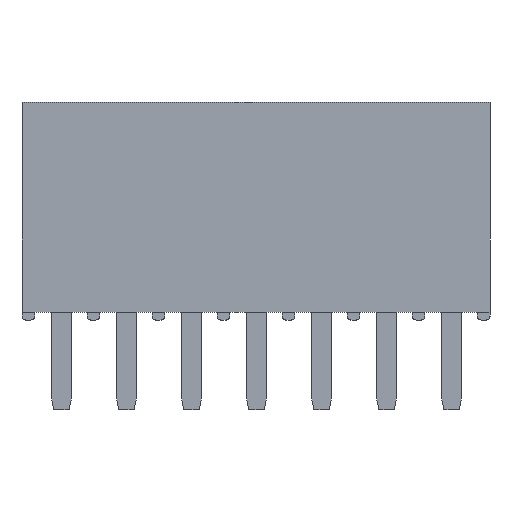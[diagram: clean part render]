
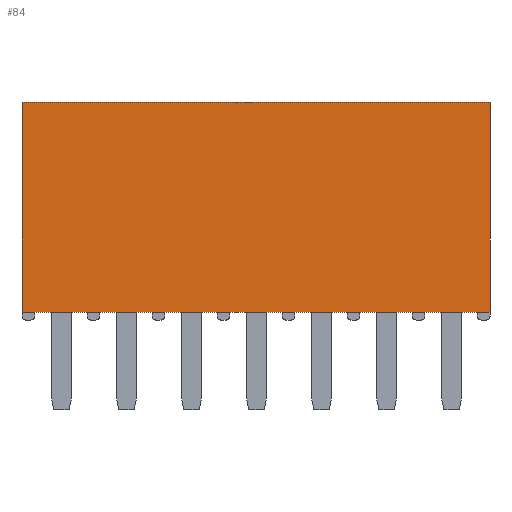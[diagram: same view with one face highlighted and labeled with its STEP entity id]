
A CAD part, left-side view. The second image highlights one B-rep face of the part: STEP entity #84.
In plain terms, the highlighted planar face has unit normal (-1, 0, 0).
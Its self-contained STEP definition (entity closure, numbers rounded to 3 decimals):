
#84=ADVANCED_FACE('',(#412),#256,.T.);
#256=PLANE('',#3115);
#412=FACE_OUTER_BOUND('',#611,.T.);
#611=EDGE_LOOP('',(#834,#835,#836,#837));
#834=ORIENTED_EDGE('',*,*,#1947,.T.);
#835=ORIENTED_EDGE('',*,*,#1941,.T.);
#836=ORIENTED_EDGE('',*,*,#1949,.F.);
#837=ORIENTED_EDGE('',*,*,#1950,.T.);
#1667=VERTEX_POINT('',#4176);
#1669=VERTEX_POINT('',#4180);
#1675=VERTEX_POINT('',#4194);
#1676=VERTEX_POINT('',#4198);
#1941=EDGE_CURVE('',#1667,#1669,#2363,.T.);
#1947=EDGE_CURVE('',#1675,#1667,#2369,.T.);
#1949=EDGE_CURVE('',#1676,#1669,#2371,.T.);
#1950=EDGE_CURVE('',#1676,#1675,#2372,.T.);
#2363=LINE('',#4181,#2753);
#2369=LINE('',#4193,#2759);
#2371=LINE('',#4197,#2761);
#2372=LINE('',#4199,#2762);
#2753=VECTOR('',#3350,1.);
#2759=VECTOR('',#3358,1.);
#2761=VECTOR('',#3362,1.);
#2762=VECTOR('',#3363,1.);
#3115=AXIS2_PLACEMENT_3D('',#4200,#3364,#3365);
#3350=DIRECTION('',(0.,1.,0.));
#3358=DIRECTION('',(0.,0.,1.));
#3362=DIRECTION('',(0.,0.,1.));
#3363=DIRECTION('',(0.,-1.,0.));
#3364=DIRECTION('',(-1.,0.,0.));
#3365=DIRECTION('',(0.,0.,1.));
#4176=CARTESIAN_POINT('',(0.,0.,8.2));
#4180=CARTESIAN_POINT('',(0.,18.28,8.2));
#4181=CARTESIAN_POINT('',(0.,9.14,8.2));
#4193=CARTESIAN_POINT('',(0.,0.,0.));
#4194=CARTESIAN_POINT('',(0.,0.,0.));
#4197=CARTESIAN_POINT('',(0.,18.28,0.));
#4198=CARTESIAN_POINT('',(0.,18.28,0.));
#4199=CARTESIAN_POINT('',(0.,9.14,0.));
#4200=CARTESIAN_POINT('',(0.,9.14,0.));
